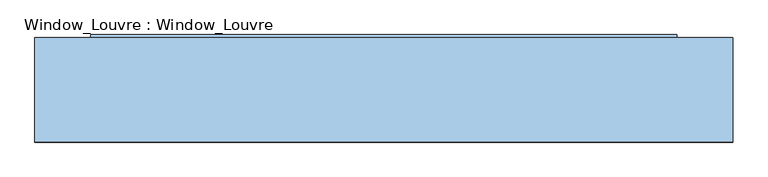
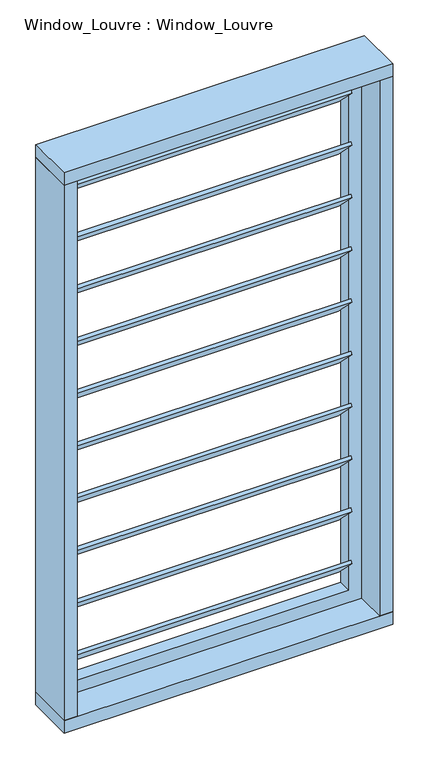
"""IFC4 building model written with IfcOpenShell, lengths in millimetres: window geometry, Window_Louvre : Window_Louvre."""

from ifc_helpers import new_model, si_unit, frame, origin, place, context, project, spatial, polyline, outline, extrude, source, transform, mapped, element, save


def window_louvre_window_louvre_105a682d(model_context):
    return source(origin(), model_context, "Body", "SweptSolid", [
        extrude(outline(polyline([(640.0, -460.0), (640.0, 460.0), (2360.0, 460.0), (2360.0, -460.0), (640.0, -460.0)]), holes=[polyline([(2320.0, -420.0), (2320.0, 420.0), (680.0, 420.0), (680.0, -420.0), (2320.0, -420.0)])]), frame((0.0, 20.0, 0.0), z_axis=(0.0, 1.0, 0.0), x_axis=(0.0, 0.0, 1.0)), (0.0, 0.0, 1.0), 40.0),
        extrude(outline(polyline([(0.0, -100.0), (0.0, 0.0), (840.0, 0.0), (840.0, -100.0), (0.0, -100.0)])), frame((-420.0, 71.8198052, 2049.1737207), z_axis=(0.0, 0.7071067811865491, 0.7071067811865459), x_axis=(1.0, 0.0, 0.0)), (0.0, 0.0, 1.0), 10.0),
        extrude(outline(polyline([(0.0, -100.0), (0.0, 0.0), (840.0, 0.0), (840.0, -100.0), (0.0, -100.0)])), frame((-420.0, 71.8198052, 1881.1474414), z_axis=(0.0, 0.7071067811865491, 0.7071067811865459), x_axis=(1.0, 0.0, 0.0)), (0.0, 0.0, 1.0), 10.0),
        extrude(outline(polyline([(0.0, -100.0), (0.0, 0.0), (840.0, 0.0), (840.0, -100.0), (0.0, -100.0)])), frame((-420.0, 71.8198052, 1713.1211621), z_axis=(0.0, 0.7071067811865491, 0.7071067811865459), x_axis=(1.0, 0.0, 0.0)), (0.0, 0.0, 1.0), 10.0),
        extrude(outline(polyline([(0.0, -100.0000001), (0.0, 0.0), (840.0, 0.0), (840.0, -100.0000001), (0.0, -100.0000001)])), frame((-420.0, 71.8198052, 1545.0948828), z_axis=(0.0, 0.7071067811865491, 0.7071067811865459), x_axis=(1.0, 0.0, 0.0)), (0.0, 0.0, 1.0), 10.0),
        extrude(outline(polyline([(0.0, -100.0000001), (0.0, 0.0), (840.0, 0.0), (840.0, -100.0000001), (0.0, -100.0000001)])), frame((-420.0, 71.8198052, 1377.0686035), z_axis=(0.0, 0.7071067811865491, 0.7071067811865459), x_axis=(1.0, 0.0, 0.0)), (0.0, 0.0, 1.0), 10.0),
        extrude(outline(polyline([(0.0, -100.0), (0.0, 0.0), (840.0, 0.0), (840.0, -100.0), (0.0, -100.0)])), frame((-420.0, 71.8198052, 1209.0423243), z_axis=(0.0, 0.7071067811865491, 0.7071067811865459), x_axis=(1.0, 0.0, 0.0)), (0.0, 0.0, 1.0), 10.0),
        extrude(outline(polyline([(0.0, -100.0), (0.0, 0.0), (840.0, 0.0), (840.0, -100.0), (0.0, -100.0)])), frame((-420.0, 71.8198052, 1041.016045), z_axis=(0.0, 0.7071067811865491, 0.7071067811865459), x_axis=(1.0, 0.0, 0.0)), (0.0, 0.0, 1.0), 10.0),
        extrude(outline(polyline([(0.0, -100.0), (0.0, 0.0), (840.0, 0.0), (840.0, -100.0), (0.0, -100.0)])), frame((-420.0, 71.8198052, 872.9897657), z_axis=(0.0, 0.7071067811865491, 0.7071067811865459), x_axis=(1.0, 0.0, 0.0)), (0.0, 0.0, 1.0), 10.0),
        extrude(outline(polyline([(0.0, -100.0), (0.0, 0.0), (840.0, 0.0), (840.0, -100.0), (0.0, -100.0)])), frame((-420.0, 71.8198052, 2217.2), z_axis=(0.0, 0.7071067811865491, 0.7071067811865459), x_axis=(1.0, 0.0, 0.0)), (0.0, 0.0, 1.0), 10.0),
        extrude(outline(polyline([(0.0, -100.0), (0.0, 0.0), (840.0, 0.0), (840.0, -100.0), (0.0, -100.0)])), frame((-420.0, 71.8198052, 704.9634864), z_axis=(0.0, 0.7071067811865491, 0.7071067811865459), x_axis=(1.0, 0.0, 0.0)), (0.0, 0.0, 1.0), 10.0),
        extrude(outline(polyline([(500.0, 75.0), (500.0, -75.0), (-500.0, -75.0), (-500.0, 75.0), (500.0, 75.0)])), frame((0.0, 0.0, 2360.0), z_axis=(0.0, 0.0, 1.0), x_axis=(1.0, 0.0, 0.0)), (0.0, 0.0, 1.0), 40.0),
        extrude(outline(polyline([(500.0, 75.0), (500.0, -75.0), (-500.0, -75.0), (-500.0, 75.0), (500.0, 75.0)])), frame((0.0, 0.0, 600.0), z_axis=(0.0, 0.0, 1.0), x_axis=(1.0, 0.0, 0.0)), (0.0, 0.0, 1.0), 40.0),
        extrude(outline(polyline([(-460.0, -75.0), (-500.0, -75.0), (-500.0, 75.0), (-460.0, 75.0), (-460.0, -75.0)])), frame((0.0, 0.0, 640.0), z_axis=(0.0, 0.0, 1.0), x_axis=(1.0, 0.0, 0.0)), (0.0, 0.0, 1.0), 1720.0),
        extrude(outline(polyline([(460.0, -75.0), (460.0, 75.0), (500.0, 75.0), (500.0, -75.0), (460.0, -75.0)])), frame((0.0, 0.0, 640.0), z_axis=(0.0, 0.0, 1.0), x_axis=(1.0, 0.0, 0.0)), (0.0, 0.0, 1.0), 1720.0),
    ])


if __name__ == "__main__":
    model = new_model("IFC4")
    model_context = context("Model", 3, world=origin())
    ifc_project = project(units=[si_unit("LENGTHUNIT", "METRE", prefix="MILLI")], contexts=[model_context])
    site = spatial("IfcSite", under=ifc_project)
    building = spatial("IfcBuilding", under=site)
    placement = place(None, origin())
    window_louvre_window_louvre_shape = window_louvre_window_louvre_105a682d(model_context)
    element("IfcWindow", 1, ObjectType="Window_Louvre : Window_Louvre", at=placement, inside=building, context=model_context, shape_type="MappedRepresentation", body=[
        mapped(window_louvre_window_louvre_shape, transform((0.0, 0.0, 0.0), x_axis=(1.0, 0.0, 0.0), y_axis=(0.0, 1.0, 0.0), z_axis=(0.0, 0.0, 1.0))),
    ])
    save(model, "model.ifc")
